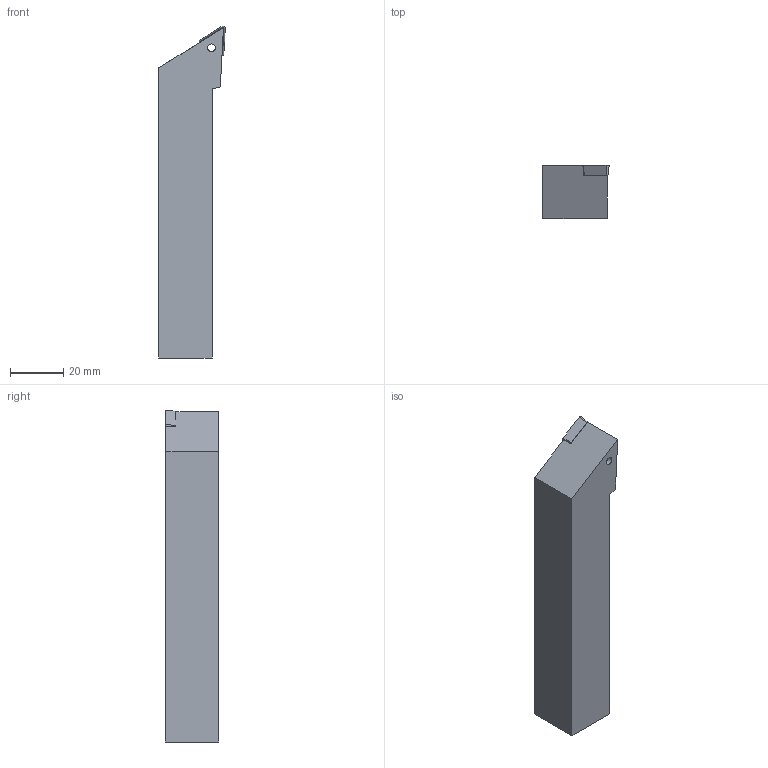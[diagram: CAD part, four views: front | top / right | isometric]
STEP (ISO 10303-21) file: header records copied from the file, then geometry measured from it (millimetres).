
FILE_DESCRIPTION(/* description */ (''),/* implementation_level */ '2;1');
FILE_NAME(/* name */ 'SDJCR2020-K11-HAAS.stp',/* time_stamp */ '2021-09-29T10:35:29+09:00',/* author */ (''),/* organization */ (''),/* preprocessor_version */ 'ST-DEVELOPER v16.7',/* originating_system */ 'SIEMENS PLM Software NX 1946',/* authorisation */ '');
FILE_SCHEMA (('AP203_CONFIGURATION_CONTROLLED_3D_DESIGN_OF_MECHANICAL_PARTS_AND_ASSEMBLIES_MIM_LF { 1 0 10303 403 2 1 2}'));
Length unit declared in the file: millimetre
Products named in the file (1): user51A0C9E0696e
Bounding box: 24.96 x 20 x 124.65 mm (x, y, z)
Volume: 47308.9 mm3; surface area: 10964.4 mm2
Topology: 2 solids, 2 shells, 34 faces, 90 edges, 60 vertices
Faces by surface type: plane 27, cylinder 5, cone 2
Full cylindrical faces by diameter (mm): 2.9 x1, 6.2 x1
Entity records: 1129 total; most frequent: CARTESIAN_POINT 181, ORIENTED_EDGE 174, DIRECTION 171, EDGE_CURVE 87, LINE 73, VECTOR 73, VERTEX_POINT 59, AXIS2_PLACEMENT_3D 49
